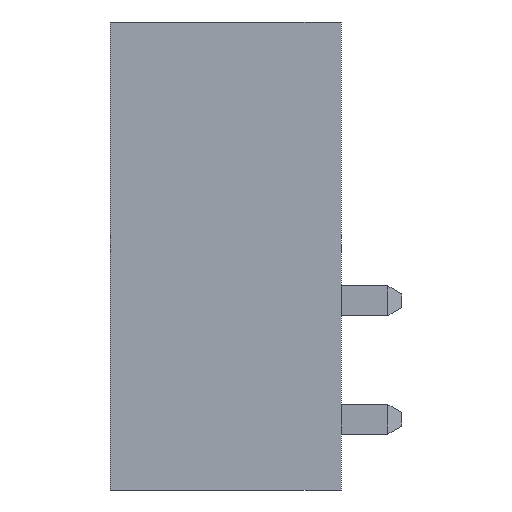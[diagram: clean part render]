
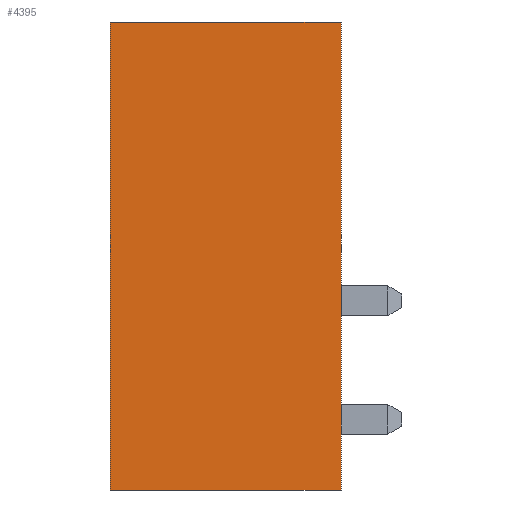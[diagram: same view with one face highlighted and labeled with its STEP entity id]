
A CAD part, left-side view. The second image highlights one B-rep face of the part: STEP entity #4395.
In plain terms, the highlighted planar face has unit normal (-1, 0, 0).
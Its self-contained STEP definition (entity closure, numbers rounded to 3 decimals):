
#4356 = CARTESIAN_POINT ( 'NONE',  ( -5.335, 0., -5.015 ) ) ;
#4357 = VERTEX_POINT ( 'NONE', #4356 ) ;
#4358 = CARTESIAN_POINT ( 'NONE',  ( -5.335, 0., 5.015 ) ) ;
#4359 = VERTEX_POINT ( 'NONE', #4358 ) ;
#4360 = CARTESIAN_POINT ( 'NONE',  ( -5.335, 0., -5.015 ) ) ;
#4361 = DIRECTION ( 'NONE',  ( 0., 0., 1. ) ) ;
#4362 = VECTOR ( 'NONE', #4361, 1000. ) ;
#4363 = LINE ( 'NONE', #4360, #4362 ) ;
#4364 = EDGE_CURVE ( 'NONE', #4357, #4359, #4363, .T. ) ;
#4365 = ORIENTED_EDGE ( 'NONE', *, *, #4364, .T. ) ;
#4366 = CARTESIAN_POINT ( 'NONE',  ( -5.335, 4.95, 5.015 ) ) ;
#4367 = VERTEX_POINT ( 'NONE', #4366 ) ;
#4368 = CARTESIAN_POINT ( 'NONE',  ( -5.335, 4.95, 5.015 ) ) ;
#4369 = DIRECTION ( 'NONE',  ( 0., -1., 0. ) ) ;
#4370 = VECTOR ( 'NONE', #4369, 1000. ) ;
#4371 = LINE ( 'NONE', #4368, #4370 ) ;
#4372 = EDGE_CURVE ( 'NONE', #4367, #4359, #4371, .T. ) ;
#4373 = ORIENTED_EDGE ( 'NONE', *, *, #4372, .F. ) ;
#4374 = CARTESIAN_POINT ( 'NONE',  ( -5.335, 4.95, -5.015 ) ) ;
#4375 = VERTEX_POINT ( 'NONE', #4374 ) ;
#4376 = CARTESIAN_POINT ( 'NONE',  ( -5.335, 4.95, -5.015 ) ) ;
#4377 = DIRECTION ( 'NONE',  ( 0., 0., 1. ) ) ;
#4378 = VECTOR ( 'NONE', #4377, 1000. ) ;
#4379 = LINE ( 'NONE', #4376, #4378 ) ;
#4380 = EDGE_CURVE ( 'NONE', #4375, #4367, #4379, .T. ) ;
#4381 = ORIENTED_EDGE ( 'NONE', *, *, #4380, .F. ) ;
#4382 = CARTESIAN_POINT ( 'NONE',  ( -5.335, 4.95, -5.015 ) ) ;
#4383 = DIRECTION ( 'NONE',  ( 0., -1., 0. ) ) ;
#4384 = VECTOR ( 'NONE', #4383, 1000. ) ;
#4385 = LINE ( 'NONE', #4382, #4384 ) ;
#4386 = EDGE_CURVE ( 'NONE', #4375, #4357, #4385, .T. ) ;
#4387 = ORIENTED_EDGE ( 'NONE', *, *, #4386, .T. ) ;
#4388 = EDGE_LOOP ( 'NONE', ( #4365, #4373, #4381, #4387 ) ) ;
#4389 = FACE_OUTER_BOUND ( 'NONE', #4388, .T. ) ;
#4390 = CARTESIAN_POINT ( 'NONE',  ( -5.335, 4.95, -5.015 ) ) ;
#4391 = DIRECTION ( 'NONE',  ( 1., 0., 0. ) ) ;
#4392 = DIRECTION ( 'NONE',  ( 0., 0., -1. ) ) ;
#4393 = AXIS2_PLACEMENT_3D ( 'NONE', #4390, #4391, #4392 ) ;
#4394 = PLANE ( 'NONE', #4393 ) ;
#4395 = ADVANCED_FACE ( 'NONE', ( #4389 ), #4394, .F. ) ;
